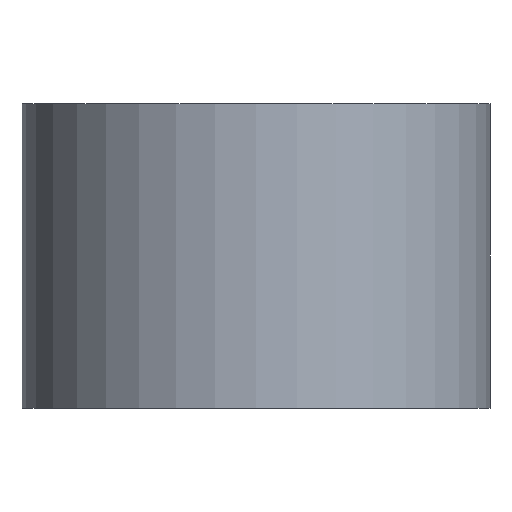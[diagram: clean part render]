
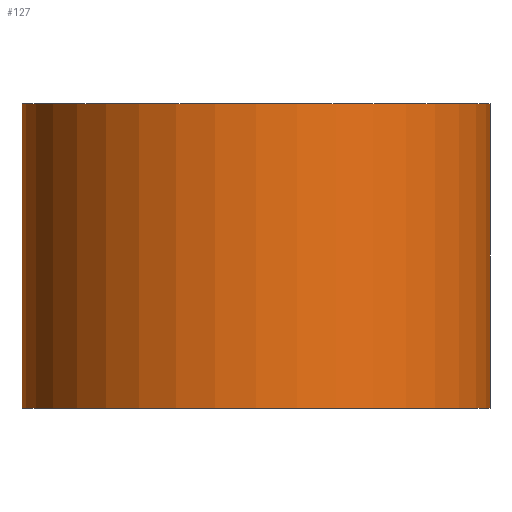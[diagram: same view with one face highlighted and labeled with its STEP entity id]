
A CAD part, front view. The second image highlights one B-rep face of the part: STEP entity #127.
In plain terms, the highlighted cylindrical face has radius 10 mm (diameter 20 mm), a full revolution.
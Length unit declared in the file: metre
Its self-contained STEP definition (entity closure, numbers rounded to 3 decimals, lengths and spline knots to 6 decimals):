
#29=ORIENTED_EDGE('',*,*,#55,.T.);
#30=ORIENTED_EDGE('',*,*,#56,.F.);
#55=EDGE_CURVE('',#68,#68,#79,.T.);
#56=EDGE_CURVE('',#69,#69,#80,.T.);
#68=VERTEX_POINT('',#224);
#69=VERTEX_POINT('',#226);
#79=CIRCLE('',#154,0.01);
#80=CIRCLE('',#155,0.01);
#88=EDGE_LOOP('',(#29));
#89=EDGE_LOOP('',(#30));
#106=FACE_BOUND('',#88,.T.);
#107=FACE_BOUND('',#89,.T.);
#123=CYLINDRICAL_SURFACE('',#153,0.01);
#127=ADVANCED_FACE('',(#106,#107),#123,.T.);
#153=AXIS2_PLACEMENT_3D('',#222,#178,#179);
#154=AXIS2_PLACEMENT_3D('',#223,#180,#181);
#155=AXIS2_PLACEMENT_3D('',#225,#182,#183);
#178=DIRECTION('',(0.,0.,-1.));
#179=DIRECTION('',(-1.,0.,0.));
#180=DIRECTION('',(0.,0.,1.));
#181=DIRECTION('',(1.,0.,0.));
#182=DIRECTION('',(0.,0.,1.));
#183=DIRECTION('',(1.,0.,0.));
#222=CARTESIAN_POINT('',(0.,0.,0.01));
#223=CARTESIAN_POINT('',(0.,0.,0.));
#224=CARTESIAN_POINT('',(0.01,0.,0.));
#225=CARTESIAN_POINT('',(0.,0.,0.013));
#226=CARTESIAN_POINT('',(0.01,0.,0.013));
